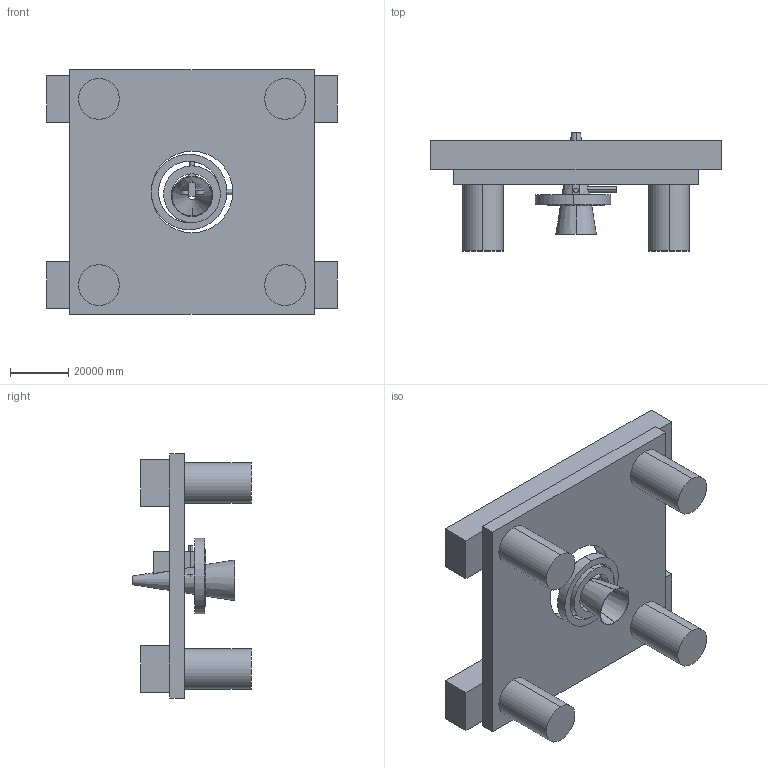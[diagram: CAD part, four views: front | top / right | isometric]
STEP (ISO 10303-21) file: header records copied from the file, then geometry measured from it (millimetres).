
FILE_DESCRIPTION (( 'STEP AP203' ), '1' );
FILE_NAME ('01_Earth_Port_Platform.STEP', '2026-10-28T18:37:39', ( '' ), ( '' ), 'SwSTEP 2.0', 'SolidWorks 2026', '' );
FILE_SCHEMA (( 'CONFIG_CONTROL_DESIGN' ));
Length unit declared in the file: inch
Products named in the file (5): EP_03_Inner_Gimbal_And_Capstan_Hub; EP_02_Outer_Gimbal_Ring; EP_01_SemiSubmersible_Hull; EP_04_Lightning_And_Wind_Arrestor_Tower; 01_Earth_Port_Platform
Assembly tree (4 placements, depth 2):
  01_Earth_Port_Platform
    EP_01_SemiSubmersible_Hull
    EP_02_Outer_Gimbal_Ring
    EP_03_Inner_Gimbal_And_Capstan_Hub
    EP_04_Lightning_And_Wind_Arrestor_Tower
Bounding box: 100000 x 40750 x 84000 mm (x, y, z)
Volume: 80101901706572.6 mm3; surface area: 28648864042.7 mm2
Topology: 8 solids, 8 shells, 94 faces, 214 edges, 140 vertices
Faces by surface type: plane 62, cylinder 26, cone 6
Entity records: 3269 total; most frequent: CARTESIAN_POINT 549, DIRECTION 488, ORIENTED_EDGE 428, EDGE_CURVE 214, AXIS2_PLACEMENT_3D 181, VERTEX_POINT 140, VECTOR 126, LINE 126
